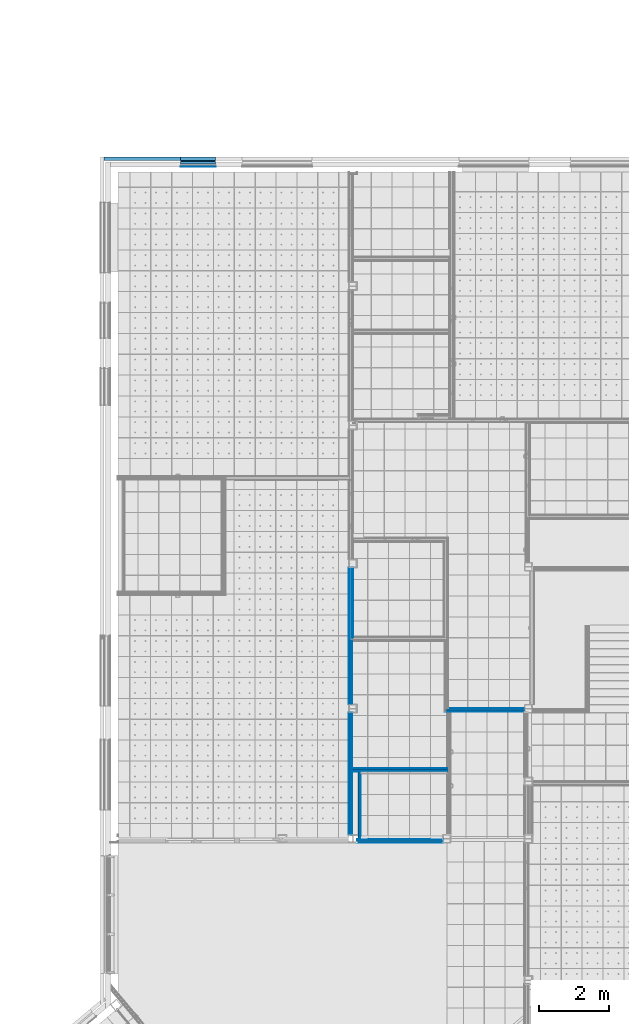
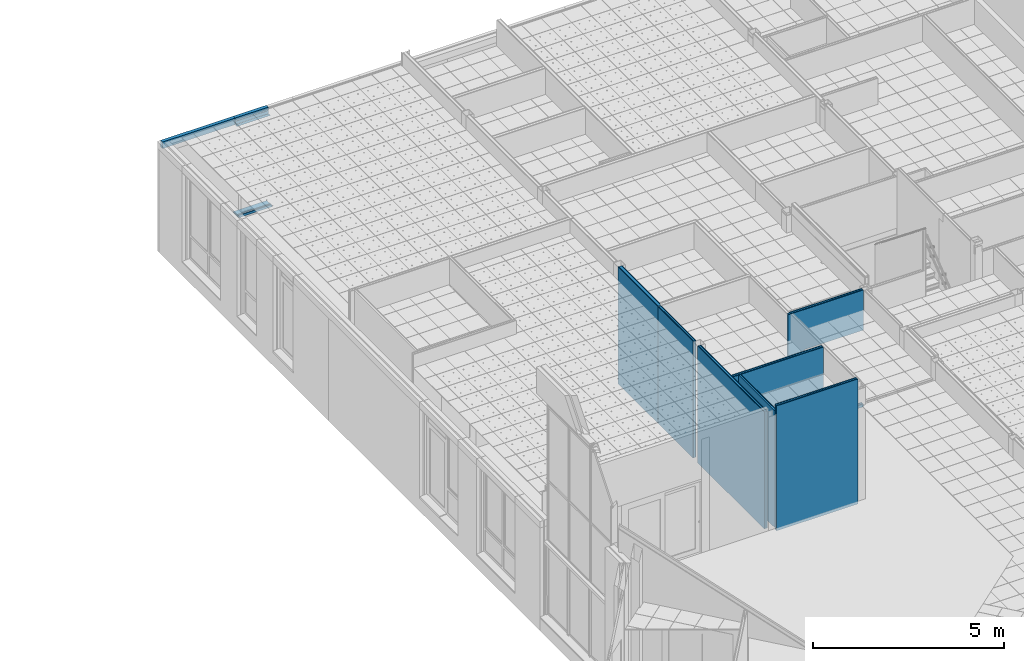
# One storey, part 77 of 338: 39 building element parts, 1 opening, 10 elements without a shape of their own.
"""IFC2X3 building model written with IfcOpenShell, lengths in millimetres."""

from ifc_helpers import new_model, entity, si_unit, converted_unit, derived_unit, money_unit, direction, frame, origin_with_axes, place, context, subcontext, project, spatial, faceted_brep, material, type_object, element, aggregate, save


model = new_model("IFC2X3")

# Units and contexts
model_context = context("Model", 3, precision=0.01, world=origin_with_axes(), true_north=direction((0.0, 1.0)))
plan_context = context("Plan", 3, precision=0.01, world=origin_with_axes(), true_north=direction((0.0, 1.0)))
body_context = subcontext(model_context, "Body", "Model", "MODEL_VIEW")
ifc_project = project(units=[si_unit("LENGTHUNIT", "METRE", prefix="MILLI"), si_unit("AREAUNIT", "SQUARE_METRE"), si_unit("VOLUMEUNIT", "CUBIC_METRE"), converted_unit("PLANEANGLEUNIT", "DEGREE", entity("IfcPlaneAngleMeasure", 0.0174532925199), si_unit("PLANEANGLEUNIT", "RADIAN"), dimensions=[0, 0, 0, 0, 0, 0, 0]), money_unit("EUR"), converted_unit("TIMEUNIT", "Year", entity("IfcTimeMeasure", 31556926.0), si_unit("TIMEUNIT", "SECOND"), dimensions=[0, 0, 1, 0, 0, 0, 0]), si_unit("MASSUNIT", "GRAM", prefix="KILO"), si_unit("THERMODYNAMICTEMPERATUREUNIT", "DEGREE_CELSIUS"), si_unit("LUMINOUSINTENSITYUNIT", "LUMEN"), si_unit("ENERGYUNIT", "JOULE", prefix="MEGA"), derived_unit("THERMALCONDUCTANCEUNIT", [(si_unit("POWERUNIT", "WATT"), 1), (si_unit("LENGTHUNIT", "METRE"), -1), (si_unit("THERMODYNAMICTEMPERATUREUNIT", "KELVIN"), -1)]), derived_unit("SPECIFICHEATCAPACITYUNIT", [(si_unit("ENERGYUNIT", "JOULE"), 1), (si_unit("MASSUNIT", "GRAM", prefix="KILO"), -1), (si_unit("THERMODYNAMICTEMPERATUREUNIT", "KELVIN"), -1)]), derived_unit("MASSDENSITYUNIT", [(si_unit("MASSUNIT", "GRAM", prefix="KILO"), 1), (si_unit("VOLUMEUNIT", "CUBIC_METRE"), -1)])], contexts=[model_context, plan_context])

# Site, building, storey
site_placement = place(None, origin_with_axes())
site = spatial("IfcSite", under=ifc_project, at=site_placement, Name="Fortuinstraat Woensdrecht", CompositionType="ELEMENT")
building_placement = place(site_placement, origin_with_axes())
building = spatial("IfcBuilding", under=site, at=building_placement, Name="IKC Fortuna", CompositionType="ELEMENT")
storey_placement = place(building_placement, origin_with_axes())
storey = spatial("IfcBuildingStorey", under=building, at=storey_placement, Name="00 begane grond", CompositionType="ELEMENT", Elevation=0.0)

# Wall, building element parts
wall_type_1 = type_object("IfcWallType", Name="MS125 2.75.2A 125", PredefinedType="NOTDEFINED")
wall_1_placement = place(storey_placement, frame((20451.9349765, 23974.7966283, -90.0), z_axis=(0.0, 0.0, 1.0), x_axis=(0.0, -1.0, 0.0)))
wall_1 = element("IfcWall", 1, at=wall_1_placement, inside=storey, type_object=wall_type_1, Name="22_Wand_Binnenwand")
ifc_material_1 = material(Name="Gipsplaat")
building_element_part_1_placement = place(wall_1_placement, origin_with_axes())
building_element_part_1 = element("IfcBuildingElementPart", 2, at=building_element_part_1_placement, material=ifc_material_1, Name="Gipsplaat", context=body_context, shape_type="Brep", body=[
    faceted_brep([(1999.1574442, 125.0, 3740.0), (0.0, 125.0, 3740.0), (0.0, 112.5, 3740.0), (1999.1574442, 112.5, 3740.0), (1999.1574442, 125.0, 0.0), (0.0, 125.0, 0.0), (0.0, 112.5, 0.0), (1999.1574442, 112.5, 0.0)], [[[0, 1, 2, 3]], [[4, 5, 1, 0]], [[2, 1, 5, 6]], [[3, 2, 6, 7]], [[3, 7, 4, 0]], [[7, 6, 5, 4]]]),
])
building_element_part_2_placement = place(wall_1_placement, origin_with_axes())
building_element_part_2 = element("IfcBuildingElementPart", 3, at=building_element_part_2_placement, material=ifc_material_1, Name="Gipsplaat", context=body_context, shape_type="Brep", body=[
    faceted_brep([(2011.6574442, 112.5, 3740.0), (0.0, 112.5, 3740.0), (0.0, 100.0, 3740.0), (2011.6574442, 100.0, 3740.0), (2011.6574442, 112.5, 0.0), (0.0, 112.5, 0.0), (0.0, 100.0, 0.0), (2011.6574442, 100.0, 0.0)], [[[0, 1, 2, 3]], [[4, 5, 1, 0]], [[2, 1, 5, 6]], [[3, 2, 6, 7]], [[3, 7, 4, 0]], [[7, 6, 5, 4]]]),
])
ifc_material_2 = material(Name="Isolatie - Steenwol LSW")
building_element_part_3_placement = place(wall_1_placement, origin_with_axes())
building_element_part_3 = element("IfcBuildingElementPart", 4, at=building_element_part_3_placement, material=ifc_material_2, Name="Isolatie - Steenwol LSW", context=body_context, shape_type="Brep", body=[
    faceted_brep([(2086.6574442, 100.0, 3740.0), (0.0, 100.0, 3740.0), (0.0, 25.0, 3740.0), (2086.6574442, 25.0, 3740.0), (2086.6574442, 100.0, 0.0), (0.0, 100.0, 0.0), (0.0, 25.0, 0.0), (2086.6574442, 25.0, 0.0)], [[[0, 1, 2, 3]], [[4, 5, 1, 0]], [[2, 1, 5, 6]], [[3, 2, 6, 7]], [[3, 7, 4, 0]], [[7, 6, 5, 4]]]),
])
building_element_part_4_placement = place(wall_1_placement, origin_with_axes())
building_element_part_4 = element("IfcBuildingElementPart", 5, at=building_element_part_4_placement, material=ifc_material_1, Name="Gipsplaat", context=body_context, shape_type="Brep", body=[
    faceted_brep([(2099.1574442, 25.0, 3740.0), (0.0, 25.0, 3740.0), (0.0, 12.5, 3740.0), (2099.1574442, 12.5, 3740.0), (2099.1574442, 25.0, 0.0), (0.0, 25.0, 0.0), (0.0, 12.5, 0.0), (2099.1574442, 12.5, 0.0)], [[[0, 1, 2, 3]], [[4, 5, 1, 0]], [[2, 1, 5, 6]], [[3, 2, 6, 7]], [[3, 7, 4, 0]], [[7, 6, 5, 4]]]),
])
building_element_part_5_placement = place(wall_1_placement, origin_with_axes())
building_element_part_5 = element("IfcBuildingElementPart", 6, at=building_element_part_5_placement, material=ifc_material_1, Name="Gipsplaat", context=body_context, shape_type="Brep", body=[
    faceted_brep([(2111.6574442, 12.5, 3740.0), (0.0, 12.5, 3740.0), (0.0, 0.0, 3740.0), (2111.6574442, 0.0, 3740.0), (2111.6574442, 12.5, 0.0), (0.0, 12.5, 0.0), (0.0, 0.0, 0.0), (2111.6574442, 0.0, 0.0)], [[[0, 1, 2, 3]], [[4, 5, 1, 0]], [[2, 1, 5, 6]], [[3, 2, 6, 7]], [[3, 7, 4, 0]], [[7, 6, 5, 4]]]),
])
aggregate(wall_1, [building_element_part_1, building_element_part_2, building_element_part_3, building_element_part_4, building_element_part_5])

wall_type_2 = type_object("IfcWallType", Name="MS100 2.50.2A 100", PredefinedType="NOTDEFINED")
wall_2_placement = place(storey_placement, frame((20451.9349765, 19799.7966283, -90.0), z_axis=(0.0, 0.0, 1.0), x_axis=(0.0, -1.0, 0.0)))
wall_2 = element("IfcWall", 7, at=wall_2_placement, inside=storey, type_object=wall_type_2, Name="22_Wand_Binnenwand")
building_element_part_6_placement = place(wall_2_placement, origin_with_axes())
building_element_part_6 = element("IfcBuildingElementPart", 8, at=building_element_part_6_placement, material=ifc_material_1, Name="Gipsplaat", context=body_context, shape_type="Brep", body=[
    faceted_brep([(3500.0000052, 87.5, 3740.0), (3500.0000052, 100.0, 3740.0), (0.0, 100.0, 3740.0), (0.0, 87.5, 3740.0), (3500.0000052, 87.5, 0.0), (3500.0000052, 100.0, 0.0), (0.0, 100.0, 0.0), (0.0, 87.5, 0.0)], [[[0, 1, 2, 3]], [[0, 4, 5, 1]], [[1, 5, 6, 2]], [[3, 2, 6, 7]], [[4, 0, 3, 7]], [[5, 4, 7, 6]]]),
])
building_element_part_7_placement = place(wall_2_placement, origin_with_axes())
building_element_part_7 = element("IfcBuildingElementPart", 9, at=building_element_part_7_placement, material=ifc_material_1, Name="Gipsplaat", context=body_context, shape_type="Brep", body=[
    faceted_brep([(3500.0000052, 75.0, 3740.0), (3500.0000052, 87.5, 3740.0), (0.0, 87.5, 3740.0), (0.0, 75.0, 3740.0), (3500.0000052, 75.0, 0.0), (3500.0000052, 87.5, 0.0), (0.0, 87.5, 0.0), (0.0, 75.0, 0.0)], [[[0, 1, 2, 3]], [[0, 4, 5, 1]], [[1, 5, 6, 2]], [[3, 2, 6, 7]], [[4, 0, 3, 7]], [[5, 4, 7, 6]]]),
])
building_element_part_8_placement = place(wall_2_placement, origin_with_axes())
building_element_part_8 = element("IfcBuildingElementPart", 10, at=building_element_part_8_placement, material=ifc_material_2, Name="Isolatie - Steenwol LSW", context=body_context, shape_type="Brep", body=[
    faceted_brep([(3500.0000052, 25.0, 3740.0), (3500.0000052, 75.0, 3740.0), (0.0, 75.0, 3740.0), (0.0, 25.0, 3740.0), (3500.0000052, 25.0, 0.0), (3500.0000052, 75.0, 0.0), (0.0, 75.0, 0.0), (0.0, 25.0, 0.0)], [[[0, 1, 2, 3]], [[0, 4, 5, 1]], [[1, 5, 6, 2]], [[3, 2, 6, 7]], [[4, 0, 3, 7]], [[5, 4, 7, 6]]]),
])
building_element_part_9_placement = place(wall_2_placement, origin_with_axes())
building_element_part_9 = element("IfcBuildingElementPart", 11, at=building_element_part_9_placement, material=ifc_material_1, Name="Gipsplaat", context=body_context, shape_type="Brep", body=[
    faceted_brep([(3500.0000052, 12.5, 3740.0), (3500.0000052, 25.0, 3740.0), (0.0, 25.0, 3740.0), (0.0, 12.5, 3740.0), (3500.0000052, 12.5, 0.0), (3500.0000052, 25.0, 0.0), (0.0, 25.0, 0.0), (0.0, 12.5, 0.0)], [[[0, 1, 2, 3]], [[0, 4, 5, 1]], [[1, 5, 6, 2]], [[3, 2, 6, 7]], [[4, 0, 3, 7]], [[5, 4, 7, 6]]]),
])
building_element_part_10_placement = place(wall_2_placement, origin_with_axes())
building_element_part_10 = element("IfcBuildingElementPart", 12, at=building_element_part_10_placement, material=ifc_material_1, Name="Gipsplaat", context=body_context, shape_type="Brep", body=[
    faceted_brep([(3500.0000052, 0.0, 3740.0), (3500.0000052, 12.5, 3740.0), (0.0, 12.5, 3740.0), (0.0, 0.0, 3740.0), (3500.0000052, 0.0, 0.0), (3500.0000052, 12.5, 0.0), (0.0, 12.5, 0.0), (0.0, 0.0, 0.0)], [[[0, 1, 2, 3]], [[0, 4, 5, 1]], [[1, 5, 6, 2]], [[3, 2, 6, 7]], [[4, 0, 3, 7]], [[5, 4, 7, 6]]]),
])
aggregate(wall_2, [building_element_part_6, building_element_part_7, building_element_part_8, building_element_part_9, building_element_part_10])

wall_3_placement = place(storey_placement, frame((20691.9349765, 16064.7966282, -90.0), z_axis=(0.0, 0.0, 1.0), x_axis=(1.0, 0.0, 0.0)))
wall_3 = element("IfcWall", 13, at=wall_3_placement, inside=storey, type_object=wall_type_2, Name="22_Wand_Binnenwand")
building_element_part_11_placement = place(wall_3_placement, origin_with_axes())
building_element_part_11 = element("IfcBuildingElementPart", 14, at=building_element_part_11_placement, material=ifc_material_1, Name="Gipsplaat", context=body_context, shape_type="Brep", body=[
    faceted_brep([(2456.00000002, 87.5, 4000.0), (2456.00000002, 100.0, 4000.0), (0.0, 100.0, 4000.0), (0.0, 87.5, 4000.0), (2456.00000002, 87.5, 0.0), (2456.00000002, 100.0, 0.0), (0.0, 100.0, 0.0), (0.0, 87.5, 0.0)], [[[0, 1, 2, 3]], [[0, 4, 5, 1]], [[1, 5, 6, 2]], [[3, 2, 6, 7]], [[4, 0, 3, 7]], [[5, 4, 7, 6]]]),
])
building_element_part_12_placement = place(wall_3_placement, origin_with_axes())
building_element_part_12 = element("IfcBuildingElementPart", 15, at=building_element_part_12_placement, material=ifc_material_1, Name="Gipsplaat", context=body_context, shape_type="Brep", body=[
    faceted_brep([(2456.00000002, 75.0, 4000.0), (2456.00000002, 87.5, 4000.0), (0.0, 87.5, 4000.0), (0.0, 75.0, 4000.0), (2456.00000002, 75.0, 0.0), (2456.00000002, 87.5, 0.0), (0.0, 87.5, 0.0), (0.0, 75.0, 0.0)], [[[0, 1, 2, 3]], [[0, 4, 5, 1]], [[1, 5, 6, 2]], [[3, 2, 6, 7]], [[4, 0, 3, 7]], [[5, 4, 7, 6]]]),
])
building_element_part_13_placement = place(wall_3_placement, origin_with_axes())
building_element_part_13 = element("IfcBuildingElementPart", 16, at=building_element_part_13_placement, material=ifc_material_2, Name="Isolatie - Steenwol LSW", context=body_context, shape_type="Brep", body=[
    faceted_brep([(2456.00000002, 25.0, 4000.0), (2456.00000002, 75.0, 4000.0), (0.0, 75.0, 4000.0), (0.0, 25.0, 4000.0), (2456.00000002, 25.0, 0.0), (2456.00000002, 75.0, 0.0), (0.0, 75.0, 0.0), (0.0, 25.0, 0.0)], [[[0, 1, 2, 3]], [[0, 4, 5, 1]], [[1, 5, 6, 2]], [[3, 2, 6, 7]], [[4, 0, 3, 7]], [[5, 4, 7, 6]]]),
])
building_element_part_14_placement = place(wall_3_placement, origin_with_axes())
building_element_part_14 = element("IfcBuildingElementPart", 17, at=building_element_part_14_placement, material=ifc_material_1, Name="Gipsplaat", context=body_context, shape_type="Brep", body=[
    faceted_brep([(2456.00000002, 12.5, 4000.0), (2456.00000002, 25.0, 4000.0), (0.0, 25.0, 4000.0), (0.0, 12.5, 4000.0), (2456.00000002, 12.5, 0.0), (2456.00000002, 25.0, 0.0), (0.0, 25.0, 0.0), (0.0, 12.5, 0.0)], [[[0, 1, 2, 3]], [[0, 4, 5, 1]], [[1, 5, 6, 2]], [[3, 2, 6, 7]], [[4, 0, 3, 7]], [[5, 4, 7, 6]]]),
])
building_element_part_15_placement = place(wall_3_placement, origin_with_axes())
building_element_part_15 = element("IfcBuildingElementPart", 18, at=building_element_part_15_placement, material=ifc_material_1, Name="Gipsplaat", context=body_context, shape_type="Brep", body=[
    faceted_brep([(2456.00000002, 0.0, 4000.0), (2456.00000002, 12.5, 4000.0), (0.0, 12.5, 4000.0), (0.0, 0.0, 4000.0), (2456.00000002, 0.0, 0.0), (2456.00000002, 12.5, 0.0), (0.0, 12.5, 0.0), (0.0, 0.0, 0.0)], [[[0, 1, 2, 3]], [[0, 4, 5, 1]], [[1, 5, 6, 2]], [[3, 2, 6, 7]], [[4, 0, 3, 7]], [[5, 4, 7, 6]]]),
])
aggregate(wall_3, [building_element_part_11, building_element_part_12, building_element_part_13, building_element_part_14, building_element_part_15])

wall_4_placement = place(storey_placement, frame((23382.9349765, 18204.9115798, -90.0), z_axis=(0.0, 0.0, 1.0), x_axis=(-1.0, 0.0, 0.0)))
wall_4 = element("IfcWall", 19, at=wall_4_placement, inside=storey, type_object=wall_type_2, Name="22_Wand_Binnenwand")
building_element_part_16_placement = place(wall_4_placement, origin_with_axes())
building_element_part_16 = element("IfcBuildingElementPart", 20, at=building_element_part_16_placement, material=ifc_material_1, Name="Gipsplaat", context=body_context, shape_type="Brep", body=[
    faceted_brep([(2831.0, 100.0, 3740.0), (100.0, 100.0, 3740.0), (100.0, 87.5, 3740.0), (2831.0, 87.5, 3740.0), (2831.0, 100.0, 0.0), (100.0, 100.0, 0.0), (100.0, 87.5, 0.0), (2831.0, 87.5, 0.0)], [[[0, 1, 2, 3]], [[4, 5, 1, 0]], [[2, 1, 5, 6]], [[3, 2, 6, 7]], [[3, 7, 4, 0]], [[7, 6, 5, 4]]]),
])
building_element_part_17_placement = place(wall_4_placement, origin_with_axes())
building_element_part_17 = element("IfcBuildingElementPart", 21, at=building_element_part_17_placement, material=ifc_material_1, Name="Gipsplaat", context=body_context, shape_type="Brep", body=[
    faceted_brep([(2831.0, 87.5, 3740.0), (100.0, 87.5, 3740.0), (100.0, 75.0, 3740.0), (2831.0, 75.0, 3740.0), (2831.0, 87.5, 0.0), (100.0, 87.5, 0.0), (100.0, 75.0, 0.0), (2831.0, 75.0, 0.0)], [[[0, 1, 2, 3]], [[4, 5, 1, 0]], [[2, 1, 5, 6]], [[3, 2, 6, 7]], [[3, 7, 4, 0]], [[7, 6, 5, 4]]]),
])
building_element_part_18_placement = place(wall_4_placement, origin_with_axes())
building_element_part_18 = element("IfcBuildingElementPart", 22, at=building_element_part_18_placement, material=ifc_material_2, Name="Isolatie - Steenwol LSW", context=body_context, shape_type="Brep", body=[
    faceted_brep([(2831.0, 75.0, 3740.0), (100.0, 75.0, 3740.0), (100.0, 25.0, 3740.0), (2831.0, 25.0, 3740.0), (2831.0, 75.0, 0.0), (100.0, 75.0, 0.0), (100.0, 25.0, 0.0), (2831.0, 25.0, 0.0)], [[[0, 1, 2, 3]], [[4, 5, 1, 0]], [[2, 1, 5, 6]], [[3, 2, 6, 7]], [[3, 7, 4, 0]], [[7, 6, 5, 4]]]),
])
building_element_part_19_placement = place(wall_4_placement, origin_with_axes())
building_element_part_19 = element("IfcBuildingElementPart", 23, at=building_element_part_19_placement, material=ifc_material_1, Name="Gipsplaat", context=body_context, shape_type="Brep", body=[
    faceted_brep([(2831.0, 25.0, 3740.0), (100.0, 25.0, 3740.0), (100.0, 12.5, 3740.0), (2831.0, 12.5, 3740.0), (2831.0, 25.0, 0.0), (100.0, 25.0, 0.0), (100.0, 12.5, 0.0), (2831.0, 12.5, 0.0)], [[[0, 1, 2, 3]], [[4, 5, 1, 0]], [[2, 1, 5, 6]], [[3, 2, 6, 7]], [[3, 7, 4, 0]], [[7, 6, 5, 4]]]),
])
building_element_part_20_placement = place(wall_4_placement, origin_with_axes())
building_element_part_20 = element("IfcBuildingElementPart", 24, at=building_element_part_20_placement, material=ifc_material_1, Name="Gipsplaat", context=body_context, shape_type="Brep", body=[
    faceted_brep([(2831.0, 12.5, 3740.0), (100.0, 12.5, 3740.0), (100.0, 0.0, 3740.0), (2831.0, 0.0, 3740.0), (2831.0, 12.5, 0.0), (100.0, 12.5, 0.0), (100.0, 0.0, 0.0), (2831.0, 0.0, 0.0)], [[[0, 1, 2, 3]], [[4, 5, 1, 0]], [[2, 1, 5, 6]], [[3, 2, 6, 7]], [[3, 7, 4, 0]], [[7, 6, 5, 4]]]),
])
aggregate(wall_4, [building_element_part_16, building_element_part_17, building_element_part_18, building_element_part_19, building_element_part_20])

# Wall, opening, building element parts
wall_5_placement = place(storey_placement, frame((23307.9349765, 19839.7644288, -90.0), z_axis=(0.0, 0.0, 1.0), x_axis=(1.0, 0.0, 0.0)))
wall_5 = element("IfcWall", 25, at=wall_5_placement, inside=storey, type_object=wall_type_2, Name="22_Wand_Binnenwand")
opening_placement = place(wall_5_placement, frame((1295.0, 0.0, 90.0), z_axis=(0.0, 0.0, 1.0), x_axis=(1.0, 0.0, 0.0)))
element("IfcOpeningElement", 26, at=opening_placement, cuts=wall_5, Name="32_Deur_h.08", context=body_context, shape_type="Brep", body=[
    faceted_brep([(895.0, 100.0, 0.0), (895.0, 100.0, 2367.0), (895.0, -200.0, 2367.0), (895.0, -200.0, 0.0), (-895.0, 100.0, 0.0), (-895.0, 100.0, 2367.0), (-895.0, -200.0, 2367.0), (-895.0, -200.0, 0.0)], [[[0, 1, 2, 3]], [[0, 4, 5, 1]], [[1, 5, 6, 2]], [[3, 2, 6, 7]], [[4, 0, 3, 7]], [[5, 4, 7, 6]]]),
])
building_element_part_21_placement = place(wall_5_placement, origin_with_axes())
building_element_part_21 = element("IfcBuildingElementPart", 27, at=building_element_part_21_placement, material=ifc_material_1, Name="Gipsplaat", context=body_context, shape_type="Brep", body=[
    faceted_brep([(2190.0, 87.5, 2457.0), (2190.0, 100.0, 2457.0), (2190.0, 100.0, 3740.0), (2190.0, 87.5, 3740.0), (400.0, 100.0, 2457.0), (400.0, 87.5, 2457.0), (400.0, 100.0, 90.0), (2190.0, 100.0, 90.0), (2190.0, 100.0, 0.0), (-12.5, 100.0, 0.0), (-12.5, 100.0, 3740.0), (-12.5, 87.5, 3740.0), (-12.5, 87.5, 0.0), (2190.0, 87.5, 0.0), (2190.0, 87.5, 90.0), (400.0, 87.5, 90.0)], [[[0, 1, 2, 3]], [[4, 1, 0, 5]], [[6, 7, 8, 9, 10, 2, 1, 4]], [[2, 10, 11, 3]], [[5, 0, 3, 11, 12, 13, 14, 15]], [[6, 4, 5, 15]], [[14, 7, 6, 15]], [[7, 14, 13, 8]], [[13, 12, 9, 8]], [[10, 9, 12, 11]]]),
])
building_element_part_22_placement = place(wall_5_placement, origin_with_axes())
building_element_part_22 = element("IfcBuildingElementPart", 28, at=building_element_part_22_placement, material=ifc_material_1, Name="Gipsplaat", context=body_context, shape_type="Brep", body=[
    faceted_brep([(2190.0, 75.0, 2457.0), (2190.0, 87.5, 2457.0), (2190.0, 87.5, 3740.0), (2190.0, 75.0, 3740.0), (400.0, 87.5, 2457.0), (400.0, 75.0, 2457.0), (400.0, 87.5, 90.0), (2190.0, 87.5, 90.0), (2190.0, 87.5, 0.0), (-25.0, 87.5, 0.0), (-25.0, 87.5, 3740.0), (-25.0, 75.0, 3740.0), (-25.0, 75.0, 0.0), (2190.0, 75.0, 0.0), (2190.0, 75.0, 90.0), (400.0, 75.0, 90.0)], [[[0, 1, 2, 3]], [[4, 1, 0, 5]], [[6, 7, 8, 9, 10, 2, 1, 4]], [[2, 10, 11, 3]], [[5, 0, 3, 11, 12, 13, 14, 15]], [[6, 4, 5, 15]], [[14, 7, 6, 15]], [[7, 14, 13, 8]], [[13, 12, 9, 8]], [[10, 9, 12, 11]]]),
])
building_element_part_23_placement = place(wall_5_placement, origin_with_axes())
building_element_part_23 = element("IfcBuildingElementPart", 29, at=building_element_part_23_placement, material=ifc_material_2, Name="Isolatie - Steenwol LSW", context=body_context, shape_type="Brep", body=[
    faceted_brep([(2190.0, 25.0, 2457.0), (2190.0, 75.0, 2457.0), (2190.0, 75.0, 3740.0), (2190.0, 25.0, 3740.0), (400.0, 75.0, 2457.0), (400.0, 25.0, 2457.0), (400.0, 75.0, 90.0), (2190.0, 75.0, 90.0), (2190.0, 75.0, 0.0), (-75.0, 75.0, 0.0), (-75.0, 75.0, 3740.0), (-75.0, 25.0, 3740.0), (-75.0, 25.0, 0.0), (2190.0, 25.0, 0.0), (2190.0, 25.0, 90.0), (400.0, 25.0, 90.0)], [[[0, 1, 2, 3]], [[4, 1, 0, 5]], [[6, 7, 8, 9, 10, 2, 1, 4]], [[2, 10, 11, 3]], [[5, 0, 3, 11, 12, 13, 14, 15]], [[6, 4, 5, 15]], [[14, 7, 6, 15]], [[7, 14, 13, 8]], [[13, 12, 9, 8]], [[10, 9, 12, 11]]]),
])
building_element_part_24_placement = place(wall_5_placement, origin_with_axes())
building_element_part_24 = element("IfcBuildingElementPart", 30, at=building_element_part_24_placement, material=ifc_material_1, Name="Gipsplaat", context=body_context, shape_type="Brep", body=[
    faceted_brep([(2190.0, 12.5, 2457.0), (2190.0, 25.0, 2457.0), (2190.0, 25.0, 3740.0), (2190.0, 12.5, 3740.0), (400.0, 25.0, 2457.0), (400.0, 12.5, 2457.0), (400.0, 25.0, 90.0), (2190.0, 25.0, 90.0), (2190.0, 25.0, 0.0), (-87.5, 25.0, 0.0), (-87.5, 25.0, 3740.0), (-87.5, 12.5, 3740.0), (-87.5, 12.5, 0.0), (2190.0, 12.5, 0.0), (2190.0, 12.5, 90.0), (400.0, 12.5, 90.0)], [[[0, 1, 2, 3]], [[4, 1, 0, 5]], [[6, 7, 8, 9, 10, 2, 1, 4]], [[2, 10, 11, 3]], [[5, 0, 3, 11, 12, 13, 14, 15]], [[6, 4, 5, 15]], [[14, 7, 6, 15]], [[7, 14, 13, 8]], [[13, 12, 9, 8]], [[10, 9, 12, 11]]]),
])
building_element_part_25_placement = place(wall_5_placement, origin_with_axes())
building_element_part_25 = element("IfcBuildingElementPart", 31, at=building_element_part_25_placement, material=ifc_material_1, Name="Gipsplaat", context=body_context, shape_type="Brep", body=[
    faceted_brep([(2190.0, 0.0, 2457.0), (2190.0, 12.5, 2457.0), (2190.0, 12.5, 3740.0), (2190.0, 0.0, 3740.0), (400.0, 12.5, 2457.0), (400.0, 0.0, 2457.0), (400.0, 12.5, 90.0), (2190.0, 12.5, 90.0), (2190.0, 12.5, 0.0), (-100.0, 12.5, 0.0), (-100.0, 12.5, 3740.0), (-100.0, 0.0, 3740.0), (-100.0, 0.0, 0.0), (2190.0, 0.0, 0.0), (2190.0, 0.0, 90.0), (400.0, 0.0, 90.0)], [[[0, 1, 2, 3]], [[4, 1, 0, 5]], [[6, 7, 8, 9, 10, 2, 1, 4]], [[2, 10, 11, 3]], [[5, 0, 3, 11, 12, 13, 14, 15]], [[6, 4, 5, 15]], [[14, 7, 6, 15]], [[7, 14, 13, 8]], [[13, 12, 9, 8]], [[10, 9, 12, 11]]]),
])
aggregate(wall_5, [building_element_part_21, building_element_part_22, building_element_part_23, building_element_part_24, building_element_part_25])

# Covering, building element part
covering_type_1 = type_object("IfcCoveringType", Name="41 Rollaag 280 x 210", PredefinedType="NOTDEFINED")
covering_1_placement = place(storey_placement, frame((15615.4349765, 35636.2966283, 2800.0), z_axis=(0.0, 0.0, 1.0), x_axis=(-1.0, 0.0, 0.0)))
covering_1 = element("IfcCovering", 32, at=covering_1_placement, inside=storey, type_object=covering_type_1, Name="41_Afwerking_Rollaag", PredefinedType="NOTDEFINED")
ifc_material_3 = material(Name="Steen - Baksteen Accent Rollaag")
building_element_part_26_placement = place(covering_1_placement, origin_with_axes())
building_element_part_26 = element("IfcBuildingElementPart", 33, at=building_element_part_26_placement, material=ifc_material_3, Name="Steen - Baksteen Accent Rollaag", context=body_context, shape_type="Brep", body=[
    faceted_brep([(0.0, -140.0, 0.0), (2200.0, -140.0, 0.0), (2200.0, -140.0, 210.0), (0.0, -140.0, 210.0), (0.0, -40.0, 0.0), (2200.0, -40.0, 0.0), (2200.0, -40.0, 210.0), (0.0, -40.0, 210.0)], [[[0, 1, 2, 3]], [[4, 5, 1, 0]], [[5, 6, 2, 1]], [[3, 2, 6, 7]], [[3, 7, 4, 0]], [[7, 6, 5, 4]]]),
])
aggregate(covering_1, [building_element_part_26])

# Wall, building element parts
wall_6_placement = place(storey_placement, frame((20451.9349765, 21863.1391841, -90.0), z_axis=(0.0, 0.0, 1.0), x_axis=(0.0, -1.0, 0.0)))
wall_6 = element("IfcWall", 34, at=wall_6_placement, inside=storey, type_object=wall_type_2, Name="22_Wand_Binnenwand")
building_element_part_27_placement = place(wall_6_placement, origin_with_axes())
building_element_part_27 = element("IfcBuildingElementPart", 35, at=building_element_part_27_placement, material=ifc_material_1, Name="Gipsplaat", context=body_context, shape_type="Brep", body=[
    faceted_brep([(1818.3425558, 87.5, 3740.0), (1818.3425558, 100.0, 3740.0), (0.0, 100.0, 3740.0), (0.0, 87.5, 3740.0), (1818.3425558, 87.5, 0.0), (1818.3425558, 100.0, 0.0), (0.0, 100.0, 0.0), (0.0, 87.5, 0.0)], [[[0, 1, 2, 3]], [[0, 4, 5, 1]], [[1, 5, 6, 2]], [[3, 2, 6, 7]], [[4, 0, 3, 7]], [[5, 4, 7, 6]]]),
])
building_element_part_28_placement = place(wall_6_placement, origin_with_axes())
building_element_part_28 = element("IfcBuildingElementPart", 36, at=building_element_part_28_placement, material=ifc_material_1, Name="Gipsplaat", context=body_context, shape_type="Brep", body=[
    faceted_brep([(1818.3425558, 75.0, 3740.0), (1818.3425558, 87.5, 3740.0), (0.0, 87.5, 3740.0), (0.0, 75.0, 3740.0), (1818.3425558, 75.0, 0.0), (1818.3425558, 87.5, 0.0), (0.0, 87.5, 0.0), (0.0, 75.0, 0.0)], [[[0, 1, 2, 3]], [[0, 4, 5, 1]], [[1, 5, 6, 2]], [[3, 2, 6, 7]], [[4, 0, 3, 7]], [[5, 4, 7, 6]]]),
])
building_element_part_29_placement = place(wall_6_placement, origin_with_axes())
building_element_part_29 = element("IfcBuildingElementPart", 37, at=building_element_part_29_placement, material=ifc_material_2, Name="Isolatie - Steenwol LSW", context=body_context, shape_type="Brep", body=[
    faceted_brep([(1818.3425558, 25.0, 3740.0), (1818.3425558, 75.0, 3740.0), (0.0, 75.0, 3740.0), (0.0, 25.0, 3740.0), (1818.3425558, 25.0, 0.0), (1818.3425558, 75.0, 0.0), (0.0, 75.0, 0.0), (0.0, 25.0, 0.0)], [[[0, 1, 2, 3]], [[0, 4, 5, 1]], [[1, 5, 6, 2]], [[3, 2, 6, 7]], [[4, 0, 3, 7]], [[5, 4, 7, 6]]]),
])
building_element_part_30_placement = place(wall_6_placement, origin_with_axes())
building_element_part_30 = element("IfcBuildingElementPart", 38, at=building_element_part_30_placement, material=ifc_material_1, Name="Gipsplaat", context=body_context, shape_type="Brep", body=[
    faceted_brep([(1818.3425558, 12.5, 3740.0), (1818.3425558, 25.0, 3740.0), (0.0, 25.0, 3740.0), (0.0, 12.5, 3740.0), (1818.3425558, 12.5, 0.0), (1818.3425558, 25.0, 0.0), (0.0, 25.0, 0.0), (0.0, 12.5, 0.0)], [[[0, 1, 2, 3]], [[0, 4, 5, 1]], [[1, 5, 6, 2]], [[3, 2, 6, 7]], [[4, 0, 3, 7]], [[5, 4, 7, 6]]]),
])
building_element_part_31_placement = place(wall_6_placement, origin_with_axes())
building_element_part_31 = element("IfcBuildingElementPart", 39, at=building_element_part_31_placement, material=ifc_material_1, Name="Gipsplaat", context=body_context, shape_type="Brep", body=[
    faceted_brep([(1818.3425558, 0.0, 3740.0), (1818.3425558, 12.5, 3740.0), (0.0, 12.5, 3740.0), (0.0, 0.0, 3740.0), (1818.3425558, 0.0, 0.0), (1818.3425558, 12.5, 0.0), (0.0, 12.5, 0.0), (0.0, 0.0, 0.0)], [[[0, 1, 2, 3]], [[0, 4, 5, 1]], [[1, 5, 6, 2]], [[3, 2, 6, 7]], [[4, 0, 3, 7]], [[5, 4, 7, 6]]]),
])
aggregate(wall_6, [building_element_part_27, building_element_part_28, building_element_part_29, building_element_part_30, building_element_part_31])

wall_type_3 = type_object("IfcWallType", Name="MS75 50.2A 75", PredefinedType="NOTDEFINED")
wall_7_placement = place(storey_placement, frame((20794.5342231, 16064.7966282, -90.0), z_axis=(0.0, 0.0, 1.0), x_axis=(0.0, 1.0, 0.0)))
wall_7 = element("IfcWall", 40, at=wall_7_placement, inside=storey, type_object=wall_type_3, Name="22_Wand_Binnenwand")
building_element_part_32_placement = place(wall_7_placement, origin_with_axes())
building_element_part_32 = element("IfcBuildingElementPart", 41, at=building_element_part_32_placement, material=ifc_material_2, Name="Isolatie - Steenwol LSW", context=body_context, shape_type="Brep", body=[
    faceted_brep([(2040.11495151, 25.0, 0.0), (100.0, 25.0, 0.0), (100.0, 75.0, 0.0), (2040.11495151, 75.0, 0.0), (2040.11495151, 25.0, 3740.0), (100.0, 25.0, 3740.0), (100.0, 75.0, 3740.0), (2040.11495151, 75.0, 3740.0)], [[[0, 1, 2, 3]], [[4, 5, 1, 0]], [[2, 1, 5, 6]], [[3, 2, 6, 7]], [[3, 7, 4, 0]], [[7, 6, 5, 4]]]),
])
building_element_part_33_placement = place(wall_7_placement, origin_with_axes())
building_element_part_33 = element("IfcBuildingElementPart", 42, at=building_element_part_33_placement, material=ifc_material_1, Name="Gipsplaat", context=body_context, shape_type="Brep", body=[
    faceted_brep([(2040.11495151, 12.5, 0.0), (100.0, 12.5, 0.0), (100.0, 25.0, 0.0), (2040.11495151, 25.0, 0.0), (2040.11495151, 12.5, 3740.0), (100.0, 12.5, 3740.0), (100.0, 25.0, 3740.0), (2040.11495151, 25.0, 3740.0)], [[[0, 1, 2, 3]], [[4, 5, 1, 0]], [[2, 1, 5, 6]], [[3, 2, 6, 7]], [[3, 7, 4, 0]], [[7, 6, 5, 4]]]),
])
building_element_part_34_placement = place(wall_7_placement, origin_with_axes())
building_element_part_34 = element("IfcBuildingElementPart", 43, at=building_element_part_34_placement, material=ifc_material_1, Name="Gipsplaat", context=body_context, shape_type="Brep", body=[
    faceted_brep([(2040.11495151, 0.0, 0.0), (100.0, 0.0, 0.0), (100.0, 12.5, 0.0), (2040.11495151, 12.5, 0.0), (2040.11495151, 0.0, 3740.0), (100.0, 0.0, 3740.0), (100.0, 12.5, 3740.0), (2040.11495151, 12.5, 3740.0)], [[[0, 1, 2, 3]], [[4, 5, 1, 0]], [[2, 1, 5, 6]], [[3, 2, 6, 7]], [[3, 7, 4, 0]], [[7, 6, 5, 4]]]),
])
aggregate(wall_7, [building_element_part_32, building_element_part_33, building_element_part_34])

# Covering, building element parts
covering_type_2 = type_object("IfcCoveringType", Name="41 Latei MW rollaag 280 x 227", PredefinedType="NOTDEFINED")
covering_2_placement = place(storey_placement, frame((16625.4349765, 35636.2966296, 2800.0), z_axis=(0.0, 0.0, 1.0), x_axis=(-1.0, 0.0, 0.0)))
covering_2 = element("IfcCovering", 44, at=covering_2_placement, inside=storey, type_object=covering_type_2, Name="41_Afwerking_Latei + rollaag", PredefinedType="NOTDEFINED")
ifc_material_4 = material(Name="Metaal - Staal AFW")
building_element_part_35_placement = place(covering_2_placement, origin_with_axes())
building_element_part_35 = element("IfcBuildingElementPart", 45, at=building_element_part_35_placement, material=ifc_material_4, Name="Metaal - Staal AFW", context=body_context, shape_type="Brep", body=[
    faceted_brep([(0.0, -19.6522451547, 0.0), (0.0, -19.6522451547, 4.0), (0.0, 58.0, 4.0), (0.0, 58.0, 0.0), (1010.0, -19.6522451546, 4.0), (1010.0, -19.6522451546, 0.0), (1010.0, 58.0000000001, 4.0), (1010.0, 58.0000000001, 0.0)], [[[0, 1, 2, 3]], [[4, 1, 0, 5]], [[1, 4, 6, 2]], [[2, 6, 7, 3]], [[5, 0, 3, 7]], [[4, 5, 7, 6]]]),
    faceted_brep([(0.0, -30.0664587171, 4.0), (0.0, -31.7233129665, 0.0), (0.0, -32.0, 0.0), (0.0, -32.0, 4.0), (1010.0, -31.7233129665, 0.0), (1010.0, -30.066458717, 4.0), (1010.0, -31.9999999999, 0.0), (1010.0, -31.9999999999, 4.0)], [[[0, 1, 2, 3]], [[4, 1, 0, 5]], [[1, 4, 6, 2]], [[2, 6, 7, 3]], [[5, 0, 3, 7]], [[4, 5, 7, 6]]]),
])
building_element_part_36_placement = place(covering_2_placement, origin_with_axes())
building_element_part_36 = element("IfcBuildingElementPart", 46, at=building_element_part_36_placement, material=ifc_material_3, Name="Steen - Baksteen Accent Rollaag", context=body_context, shape_type="Brep", body=[
    faceted_brep([(0.0, -40.0, 210.0), (1010.0, -39.9999999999, 210.0), (1010.0, -40.0, 0.0), (0.0, -40.0, 0.0), (0.0, -140.0, 210.0), (1010.0, -140.0, 210.0), (1010.0, -140.0, 0.0), (1010.0, -115.609685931, 0.0), (0.0, -115.609685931, 0.0), (0.0, -140.0, 0.0)], [[[0, 1, 2, 3]], [[4, 5, 1, 0]], [[2, 1, 5, 6, 7]], [[3, 2, 7, 8]], [[4, 0, 3, 8, 9]], [[9, 6, 5, 4]], [[8, 7, 6, 9]]]),
])
ifc_material_5 = material(Name="Metaal - Staal C")
building_element_part_37_placement = place(covering_2_placement, origin_with_axes())
building_element_part_37 = element("IfcBuildingElementPart", 47, at=building_element_part_37_placement, material=ifc_material_5, Name="Metaal - Staal C", context=body_context, shape_type="Brep", body=[
    faceted_brep([(0.0, -19.6522451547, 117.347754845), (0.0, -19.6522451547, 120.652245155), (0.0, -18.0000000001, 119.0), (1010.0, -19.6522451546, 120.652245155), (1010.0, -19.6522451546, 117.347754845), (1010.0, -18.0, 119.0)], [[[0, 1, 2]], [[3, 1, 0, 4]], [[1, 3, 5, 2]], [[4, 0, 2, 5]], [[3, 4, 5]]]),
    faceted_brep([(1010.0, -29.6522451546, 112.931257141), (0.0, -29.6522451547, 112.931257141), (0.0, -36.0000000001, 106.530733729), (1010.0, -36.0, 106.530733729), (0.0, -29.6522451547, 107.347754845), (1010.0, -29.6522451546, 107.347754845), (0.0, -32.0, 105.0), (0.0, -32.0, 4.0), (0.0, -32.0, 0.0), (0.0, -33.1715728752, -2.82842712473), (0.0, -36.0, -4.0), (0.0, -115.215535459, -4.0), (0.0, -135.215535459, -8.0), (0.0, -136.0, -4.07767729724), (0.0, -115.609685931, 0.0), (0.0, -40.0, 0.0), (0.0, -37.1715728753, 1.17157287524), (0.0, -36.0000000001, 3.99999999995), (1010.0, -36.0, 3.99999999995), (1010.0, -37.1715728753, 1.17157287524), (1010.0, -40.0, 0.0), (1010.0, -115.609685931, 0.0), (1010.0, -136.0, -4.07767729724), (1010.0, -135.215535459, -8.0), (1010.0, -115.215535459, -4.0), (1010.0, -36.0, -4.0), (1010.0, -33.1715728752, -2.82842712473), (1010.0, -31.9999999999, 0.0), (1010.0, -31.9999999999, 4.0), (1010.0, -31.9999999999, 105.0)], [[[0, 1, 2, 3]], [[4, 1, 0, 5]], [[1, 4, 6, 7, 8, 9, 10, 11, 12, 13, 14, 15, 16, 17, 2]], [[17, 18, 3, 2]], [[5, 0, 3, 18, 19, 20, 21, 22, 23, 24, 25, 26, 27, 28, 29]], [[4, 5, 29, 6]], [[6, 29, 28, 7]], [[7, 28, 27, 8]], [[8, 27, 26, 9]], [[9, 26, 25, 10]], [[10, 25, 24, 11]], [[11, 24, 23, 12]], [[12, 23, 22, 13]], [[13, 22, 21, 14]], [[14, 21, 20, 15]], [[15, 20, 19, 16]], [[16, 19, 18, 17]]]),
])
aggregate(covering_2, [building_element_part_35, building_element_part_36, building_element_part_37])

covering_type_3 = type_object("IfcCoveringType", Name="41 dorpel aan peil 280 x 75", PredefinedType="NOTDEFINED")
covering_3_placement = place(storey_placement, frame((15615.4349765, 35636.2963468, -2.5), z_axis=(0.0, 0.0, 1.0), x_axis=(1.0, 0.0, 0.0)))
covering_3 = element("IfcCovering", 48, at=covering_3_placement, inside=storey, type_object=covering_type_3, Name="41_Afwerking_Waterslag", PredefinedType="NOTDEFINED")
ifc_material_6 = material(Name="Steen - Kunststeen")
building_element_part_38_placement = place(covering_3_placement, origin_with_axes())
building_element_part_38 = element("IfcBuildingElementPart", 49, at=building_element_part_38_placement, material=ifc_material_6, Name="Steen - Kunststeen", context=body_context, shape_type="Brep", body=[
    faceted_brep([(1010.0, 140.0, -39.7722078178), (1010.0, 140.0, -72.5), (0.0, 140.0, -72.5), (0.0, 140.0, -39.7722078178), (1010.0, -82.0, -19.5865456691), (1010.0, -82.0, 2.5), (1010.0, -92.0, 2.5), (1010.0, -92.0, -72.5), (0.0, -92.0, -72.5), (0.0, -92.0, 2.5), (0.0, -82.0, 2.5), (0.0, -82.0, -19.5865456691)], [[[0, 1, 2, 3]], [[0, 4, 5, 6, 7, 1]], [[1, 7, 8, 2]], [[3, 2, 8, 9, 10, 11]], [[4, 0, 3, 11]], [[5, 4, 11, 10]], [[6, 5, 10, 9]], [[7, 6, 9, 8]]]),
])
ifc_material_7 = material(Name="Isolatie - PUR gespoten")
building_element_part_39_placement = place(covering_3_placement, origin_with_axes())
building_element_part_39 = element("IfcBuildingElementPart", 50, at=building_element_part_39_placement, material=ifc_material_7, Name="Isolatie - PUR gespoten", context=body_context, shape_type="Brep", body=[
    faceted_brep([(1010.0, -129.999999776, -72.5), (1010.0, -139.999999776, -72.5), (0.0, -139.999999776, -72.5), (0.0, -129.999999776, -72.5), (1010.0, -129.999999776, 2.49999888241), (1010.0, -139.999999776, 2.5), (0.0, -139.999999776, 2.5), (0.0, -129.999999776, 2.49999888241)], [[[0, 1, 2, 3]], [[0, 4, 5, 1]], [[1, 5, 6, 2]], [[3, 2, 6, 7]], [[4, 0, 3, 7]], [[5, 4, 7, 6]]]),
])
aggregate(covering_3, [building_element_part_38, building_element_part_39])

save(model, "model.ifc")
